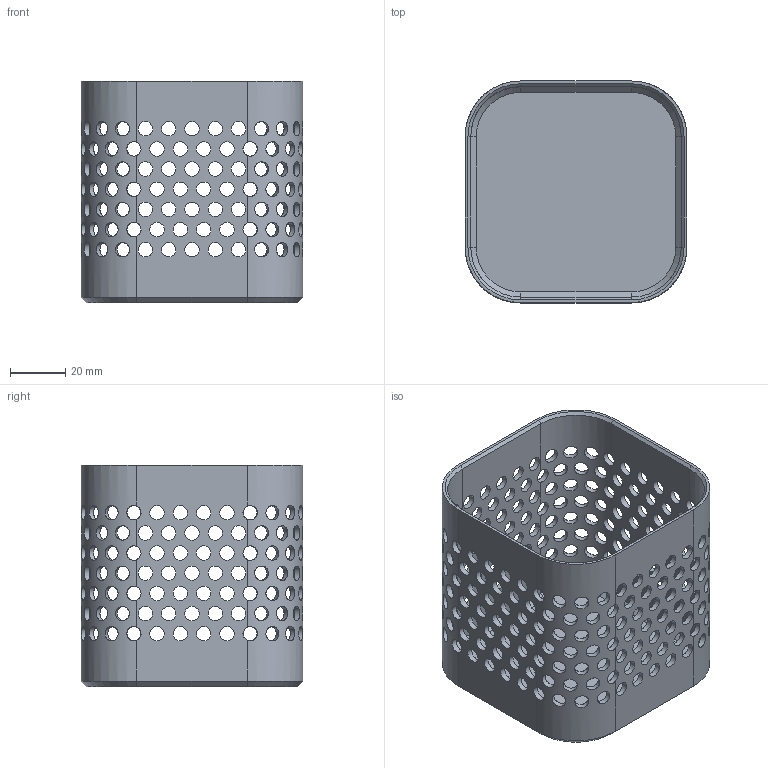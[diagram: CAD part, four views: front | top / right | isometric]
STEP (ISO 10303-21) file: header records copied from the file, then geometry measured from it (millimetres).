
FILE_DESCRIPTION(/* description */ (''),/* implementation_level */ '2;1');
FILE_NAME(/* name */ 'Box 8x8x8.step',/* time_stamp */ '2023-12-22T12:01:57+01:00',/* author */ (''),/* organization */ (''),/* preprocessor_version */ 'ST-DEVELOPER v20',/* originating_system */ 'Autodesk Translation Framework v12.14.0.127',/* authorisation */ '');
FILE_SCHEMA (('AUTOMOTIVE_DESIGN { 1 0 10303 214 3 1 1 }'));
Length unit declared in the file: millimetre
Products named in the file (1): Box 2
Bounding box: 80 x 80 x 80 mm (x, y, z)
Volume: 45414.9 mm3; surface area: 53117.6 mm2
Topology: 1 solids, 1 shells, 281 faces, 1426 edges, 1092 vertices
Faces by surface type: cylinder 246, plane 23, cone 12
Full cylindrical faces by diameter (mm): 5.2 x238
Entity records: 21576 total; most frequent: CARTESIAN_POINT 10108, ORIENTED_EDGE 2852, DIRECTION 1654, EDGE_CURVE 1426, VERTEX_POINT 1092, EDGE_LOOP 702, B_SPLINE_CURVE_WITH_KNOTS 700, AXIS2_PLACEMENT_3D 646
